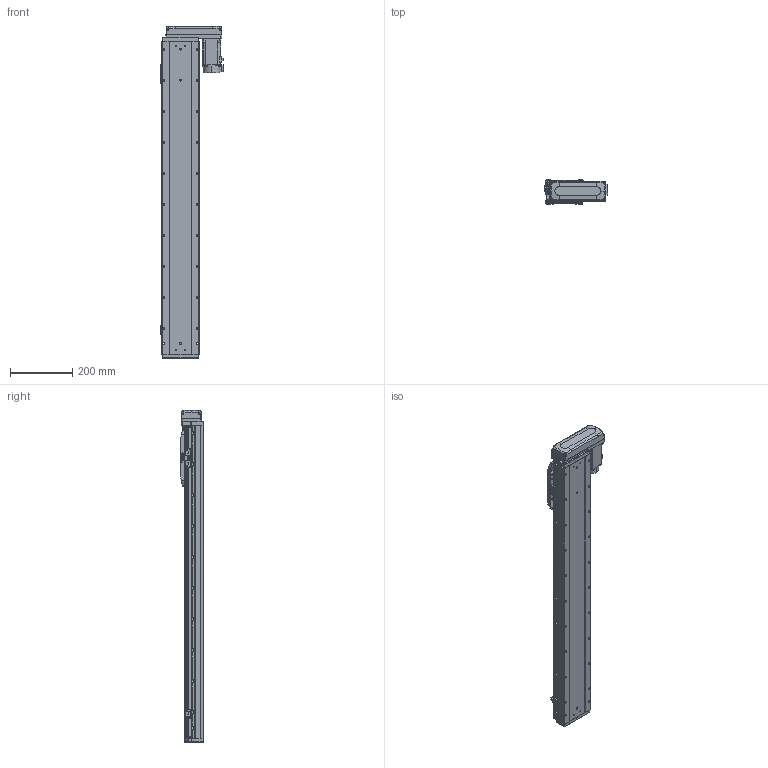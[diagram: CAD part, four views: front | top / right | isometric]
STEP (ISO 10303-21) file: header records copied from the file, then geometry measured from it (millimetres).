
FILE_DESCRIPTION (( 'STEP AP203' ), '1' );
FILE_NAME ('GTH12-800-BL-M40-C4.step', '2025-07-16T03:42:16', ( '' ), ( '' ), 'SwSTEP 2.0', 'SolidWorks 2023', '' );
FILE_SCHEMA (( 'CONFIG_CONTROL_DESIGN' ));
Length unit declared in the file: millimetre
Products named in the file (17): GBT 70.1-M5×16; CTHA86-033_M40B; GBT 70.3-M3×8; 感应器总成右; 感应器总成左; GTH120-001_800; GTH12-800-BL-M40-C4; GTH120-003; GTH120-027-1_GTH120-027-2; hg-kn43j_-s100_; GTH80-022; GTH120-004; GBT 70.1-M3×6; GTH120-013; BTH-M3X5X6; GTH80-028; GTH120-006
Assembly tree (38 placements, depth 2):
  GTH12-800-BL-M40-C4
    GTH120-001_800
    GTH120-003
    GTH120-006
    GTH120-004
    GTH120-013
    GBT 70.1-M3×6  x2
    GBT 70.1-M5×16  x10
    GBT 70.3-M3×8  x4
    GTH80-022
    GTH80-028  x2
    BTH-M3X5X6  x8
    hg-kn43j_-s100_
    CTHA86-033_M40B
    GTH120-027-1_GTH120-027-2
    感应器总成右  x2
    感应器总成左
Bounding box: 203.5 x 76 x 1070.5 mm (x, y, z)
Volume: 7830196.7 mm3; surface area: 700336.6 mm2
Topology: 55 solids, 55 shells, 2451 faces, 5772 edges, 3557 vertices
Faces by surface type: plane 1244, cylinder 719, cone 312, torus 162, sphere 8, bspline 6
Entity records: 54218 total; most frequent: CARTESIAN_POINT 9278, DIRECTION 9195, ORIENTED_EDGE 8536, EDGE_CURVE 4268, AXIS2_PLACEMENT_3D 3207, VECTOR 2781, LINE 2781, VERTEX_POINT 2690
